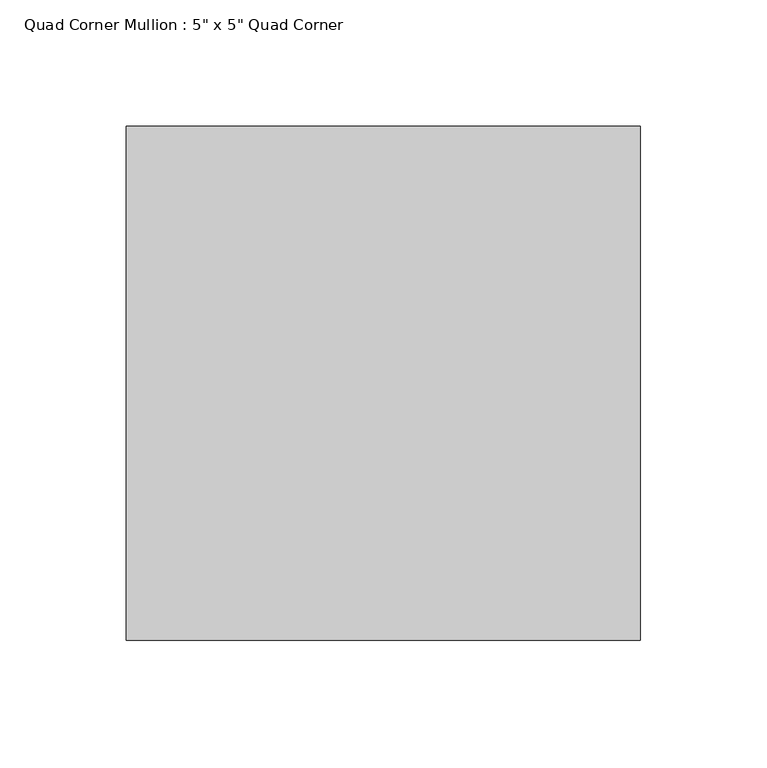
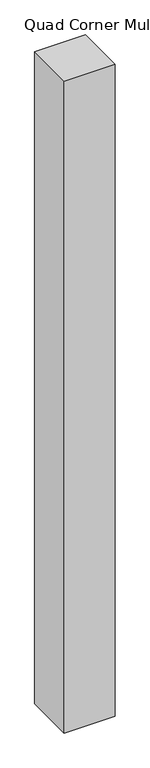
"""IFC4 building model written with IfcOpenShell, lengths in millimetres: member geometry."""

from ifc_helpers import new_model, si_unit, frame, origin, place, context, project, spatial, polyline, outline, extrude, source, transform, mapped, element, save


def member_3b08af80(model_context):
    return source(origin(), model_context, "Body", "SweptSolid", [
        extrude(outline(polyline([(69.85, 133.35), (69.85, -69.85), (-133.35, -69.85), (-133.35, 133.35), (69.85, 133.35)])), frame((0.0, 0.0, -2743.2), z_axis=(0.0, 0.0, 1.0), x_axis=(1.0, 0.0, 0.0)), (0.0, 0.0, 1.0), 2743.2),
    ])


if __name__ == "__main__":
    model = new_model("IFC4")
    model_context = context("Model", 3, world=origin())
    ifc_project = project(units=[si_unit("LENGTHUNIT", "METRE", prefix="MILLI")], contexts=[model_context])
    site = spatial("IfcSite", under=ifc_project)
    building = spatial("IfcBuilding", under=site)
    placement = place(None, origin())
    member_shape = member_3b08af80(model_context)
    element("IfcMember", 1, ObjectType="Quad Corner Mullion : 5\" x 5\" Quad Corner", at=placement, inside=building, context=model_context, shape_type="MappedRepresentation", body=[
        mapped(member_shape, transform((0.0, 0.0, 0.0), x_axis=(1.0, 0.0, 0.0), y_axis=(0.0, 1.0, 0.0), z_axis=(0.0, 0.0, 1.0))),
    ])
    save(model, "model.ifc")
